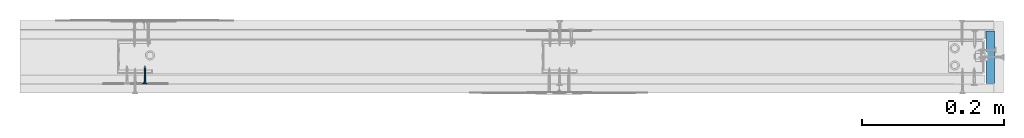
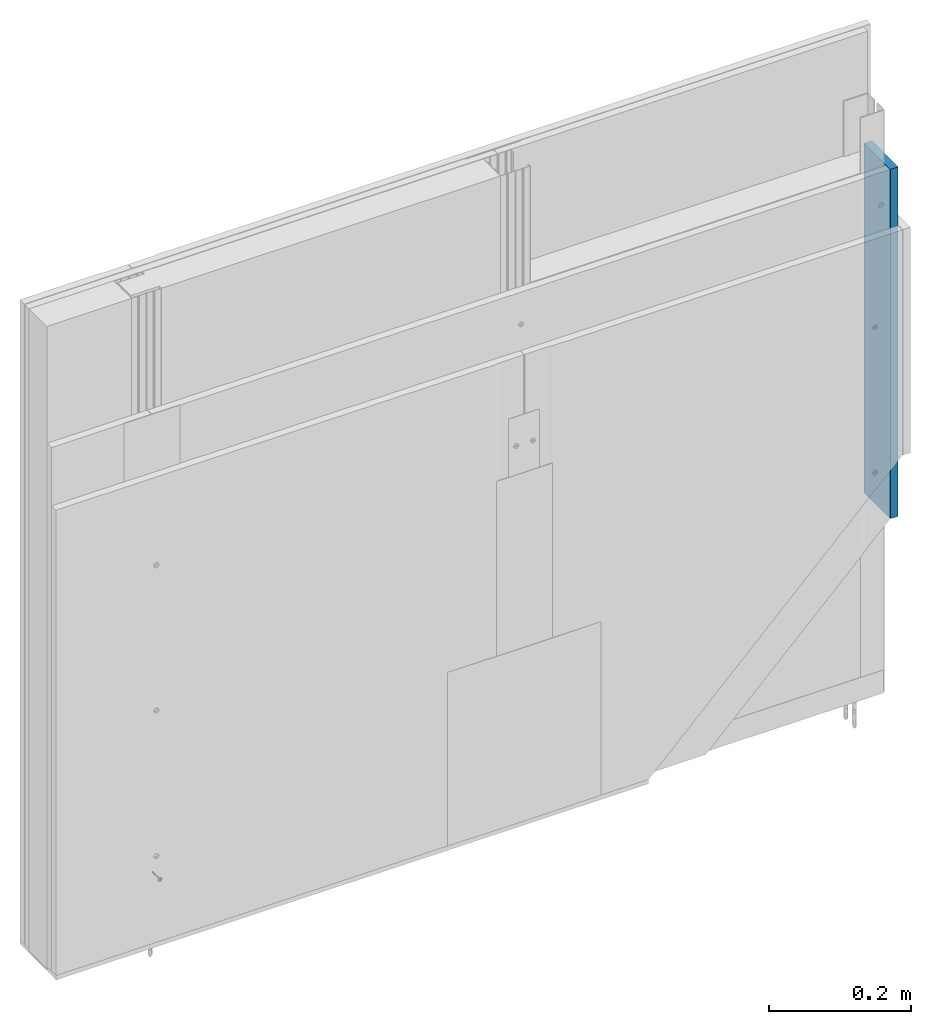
# One storey, part 5 of 52: 2 walls.
"""IFC2X3 building model written with IfcOpenShell, lengths in millimetres."""

from ifc_helpers import new_model, entity, si_unit, converted_unit, direction, frame, origin, origin_with_axes, place, context, project, spatial, faceted_brep, element, save


model = new_model("IFC2X3")

# Units and contexts
model_context = context("Model", 3, precision=1e-05, world=origin(), true_north=direction((0.0, 1.0, 0.0)))
ifc_project = project(units=[si_unit("LENGTHUNIT", "METRE", prefix="MILLI"), si_unit("AREAUNIT", "SQUARE_METRE"), si_unit("VOLUMEUNIT", "CUBIC_METRE"), converted_unit("PLANEANGLEUNIT", "DEGREE", entity("IfcPlaneAngleMeasure", 0.01745), si_unit("PLANEANGLEUNIT", "RADIAN"), dimensions=[0, 0, 0, 0, 0, 0, 0]), si_unit("SOLIDANGLEUNIT", "STERADIAN"), si_unit("MASSUNIT", "GRAM"), si_unit("TIMEUNIT", "SECOND"), si_unit("THERMODYNAMICTEMPERATUREUNIT", "DEGREE_CELSIUS"), si_unit("LUMINOUSINTENSITYUNIT", "LUMEN")], contexts=[model_context])

# Site, building, storey
site_placement = place(None, origin_with_axes())
site = spatial("IfcSite", under=ifc_project, at=site_placement, Name="Default Site", CompositionType="ELEMENT")
building_placement = place(site_placement, origin_with_axes())
building = spatial("IfcBuilding", under=site, at=building_placement, Name="Default Building", CompositionType="ELEMENT")
storey_placement = place(building_placement, origin_with_axes())
storey = spatial("IfcBuildingStorey", under=building, at=storey_placement, Name="Default Building Storey", CompositionType="ELEMENT", Elevation=0.0)

# Walls
wall_1_placement = place(storey_placement, frame((2438.967443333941, 5349.713057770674, -399.8785300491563), z_axis=(0.0, 0.0, 1.0), x_axis=(1.0, 8.115730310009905e-16, 0.0)))
element("IfcWall", 1, at=wall_1_placement, inside=storey, Name="Wkręt RIGIPS TN 25", context=model_context, shape_type="Brep", body=[
    faceted_brep([(-141.5377463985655, -3390.556721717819, 555.8000000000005), (-141.5377463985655, -3391.020944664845, 555.8000000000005), (-141.4875329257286, -3391.020944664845, 555.1619773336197), (-141.4875329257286, -3390.556721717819, 555.1619773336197), (-141.338128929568, -3391.020944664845, 554.5396649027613), (-141.338128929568, -3390.556721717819, 554.5396649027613), (-141.0932132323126, -3391.020944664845, 553.9483861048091), (-141.0932132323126, -3390.556721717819, 553.9483861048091), (-140.7588164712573, -3391.020944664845, 553.4027001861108), (-140.7588164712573, -3390.556721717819, 553.4027001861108), (-140.3431726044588, -3391.020944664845, 552.9160437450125), (-140.4541727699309, -3390.556721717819, 553.0314907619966), (-140.1080097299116, -3390.556721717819, 552.6986614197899), (-139.8565161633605, -3391.020944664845, 552.500399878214), (-139.7251262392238, -3390.556721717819, 552.4088262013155), (-139.3108302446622, -3391.020944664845, 552.1660031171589), (-139.3108302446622, -3390.556721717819, 552.1660031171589), (-138.8708651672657, -3390.556721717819, 551.9735584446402), (-138.7195514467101, -3391.020944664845, 551.9210874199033), (-138.4113302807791, -3390.556721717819, 551.8341600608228), (-137.9385961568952, -3390.556721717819, 551.7497404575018), (-138.0972390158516, -3391.020944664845, 551.7716834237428), (-137.459216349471, -3391.020944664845, 551.7214699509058), (-137.459216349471, -3390.556721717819, 551.7214699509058), (-136.8211936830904, -3391.020944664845, 551.7716834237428), (-136.8211936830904, -3390.556721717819, 551.7716834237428), (-136.198881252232, -3391.020944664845, 551.9210874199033), (-136.198881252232, -3390.556721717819, 551.9210874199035), (-135.6076024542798, -3391.020944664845, 552.1660031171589), (-135.6076024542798, -3390.556721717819, 552.1660031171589), (-135.0619165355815, -3391.020944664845, 552.500399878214), (-135.0619165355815, -3390.556721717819, 552.500399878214), (-134.5752600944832, -3391.020944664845, 552.9160437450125), (-134.5752600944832, -3390.556721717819, 552.9160437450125), (-134.1596162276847, -3391.020944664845, 553.4027001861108), (-134.1596162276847, -3390.556721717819, 553.4027001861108), (-133.8252194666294, -3391.020944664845, 553.9483861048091), (-133.8252194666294, -3390.556721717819, 553.9483861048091), (-133.580303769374, -3391.020944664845, 554.5396649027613), (-133.580303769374, -3390.556721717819, 554.5396649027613), (-133.4308997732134, -3391.020944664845, 556.438022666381), (-133.4308997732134, -3390.556721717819, 556.438022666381), (-133.3806863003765, -3390.556721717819, 555.8000000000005), (-133.3806863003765, -3391.020944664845, 555.8000000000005), (-133.4308997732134, -3390.556721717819, 555.1619773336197), (-133.4308997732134, -3391.020944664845, 555.1619773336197), (-133.580303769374, -3391.020944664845, 557.0603350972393), (-133.580303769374, -3390.556721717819, 557.0603350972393), (-133.8252194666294, -3391.020944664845, 557.6516138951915), (-133.8252194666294, -3390.556721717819, 557.6516138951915), (-134.1596162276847, -3391.020944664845, 558.1972998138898), (-134.1596162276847, -3390.556721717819, 558.1972998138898), (-134.5752600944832, -3391.020944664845, 558.6839562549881), (-134.5752600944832, -3390.556721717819, 558.6839562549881), (-135.0619165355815, -3391.020944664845, 559.0996001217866), (-135.0619165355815, -3390.556721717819, 559.0996001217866), (-135.6076024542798, -3391.020944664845, 559.4339968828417), (-135.6076024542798, -3390.556721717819, 559.4339968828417), (-136.198881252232, -3391.020944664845, 559.6789125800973), (-136.198881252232, -3390.556721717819, 559.6789125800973), (-136.8211936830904, -3391.020944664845, 559.8283165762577), (-136.8211936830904, -3390.556721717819, 559.8283165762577), (-137.459216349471, -3391.020944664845, 559.8785300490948), (-137.459216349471, -3390.556721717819, 559.8785300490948), (-138.0972390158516, -3391.020944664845, 559.8283165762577), (-138.0972390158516, -3390.556721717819, 559.8283165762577), (-138.7195514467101, -3391.020944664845, 559.6789125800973), (-138.7195514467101, -3390.556721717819, 559.6789125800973), (-139.3108302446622, -3391.020944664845, 559.4339968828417), (-139.3108302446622, -3390.556721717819, 559.4339968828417), (-139.8565161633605, -3391.020944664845, 559.0996001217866), (-139.8565161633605, -3390.556721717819, 559.0996001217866), (-140.3431726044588, -3391.020944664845, 558.6839562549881), (-140.3431726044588, -3390.556721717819, 558.6839562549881), (-140.7588164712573, -3391.020944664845, 558.1972998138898), (-140.7588164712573, -3390.556721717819, 558.1972998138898), (-141.0932132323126, -3391.020944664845, 557.6516138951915), (-141.0932132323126, -3390.556721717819, 557.6516138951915), (-141.338128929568, -3391.020944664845, 557.0603350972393), (-141.338128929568, -3390.556721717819, 557.0603350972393), (-141.4875329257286, -3391.020944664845, 556.438022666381), (-141.4875329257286, -3390.556721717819, 556.438022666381), (-137.8060615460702, -3388.229732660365, 554.5055560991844), (-137.459216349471, -3387.475459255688, 554.5693795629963), (-137.6517277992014, -3387.475459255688, 554.5845305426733), (-137.459216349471, -3388.229732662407, 554.4598930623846), (-137.8394989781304, -3387.475459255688, 554.6296104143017), (-138.1292698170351, -3388.229732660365, 554.6394333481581), (-138.0179063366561, -3387.475459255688, 554.7035091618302), (-138.1825568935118, -3387.475459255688, 554.8044071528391), (-138.4068150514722, -3388.229732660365, 554.8524012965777), (-138.3293964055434, -3387.475459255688, 554.9298199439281), (-138.6197830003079, -3388.229732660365, 555.1299465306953), (-138.4548091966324, -3387.475459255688, 555.0766594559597), (-138.5557071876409, -3387.475459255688, 555.2413100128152), (-138.7536602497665, -3388.229732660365, 555.4531548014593), (-138.6296059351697, -3387.475459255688, 555.4197173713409), (-138.6746858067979, -3387.475459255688, 555.6074885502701), (-138.7993232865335, -3388.229732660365, 555.7999999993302), (-138.6898367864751, -3387.475459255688, 555.8000000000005), (-138.7536602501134, -3388.229732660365, 556.1468451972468), (-138.6746858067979, -3387.475459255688, 555.9925114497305), (-138.6296059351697, -3387.475459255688, 556.1802826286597), (-138.6197830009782, -3388.229732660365, 556.4700534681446), (-138.5557071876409, -3387.475459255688, 556.3586899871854), (-138.4548091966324, -3387.475459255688, 556.5233405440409), (-138.4068150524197, -3388.229732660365, 556.7475987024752), (-138.3293964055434, -3387.475459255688, 556.6701800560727), (-138.1292698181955, -3388.229732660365, 556.9605666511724), (-138.1825568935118, -3387.475459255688, 556.7955928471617), (-138.0179063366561, -3387.475459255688, 556.8964908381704), (-137.8060615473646, -3388.229732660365, 557.0944439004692), (-137.8394989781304, -3387.475459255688, 556.9703895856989), (-137.6517277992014, -3387.475459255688, 557.0154694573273), (-137.459216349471, -3388.229732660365, 557.1401069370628), (-137.459216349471, -3387.475459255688, 557.0306204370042), (-137.1123711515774, -3388.229732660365, 557.0944439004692), (-137.2667048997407, -3387.475459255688, 557.0154694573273), (-137.0789337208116, -3387.475459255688, 556.9703895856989), (-136.7891628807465, -3388.229732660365, 556.9605666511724), (-136.9005263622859, -3387.475459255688, 556.8964908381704), (-136.7358758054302, -3387.475459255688, 556.7955928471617), (-136.5116176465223, -3388.229732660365, 556.7475987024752), (-136.5890362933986, -3387.475459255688, 556.6701800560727), (-136.2986496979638, -3388.229732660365, 556.4700534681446), (-136.4636235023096, -3387.475459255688, 556.5233405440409), (-136.3627255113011, -3387.475459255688, 556.3586899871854), (-136.1647724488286, -3388.229732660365, 556.1468451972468), (-136.2888267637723, -3387.475459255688, 556.1802826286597), (-136.2437468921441, -3387.475459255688, 555.9925114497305), (-136.1191094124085, -3388.229732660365, 555.7999999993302), (-136.2285959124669, -3387.475459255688, 555.8000000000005), (-136.1647724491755, -3388.229732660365, 555.4531548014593), (-136.2437468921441, -3387.475459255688, 555.6074885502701), (-136.2888267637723, -3387.475459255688, 555.4197173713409), (-136.2986496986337, -3388.229732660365, 555.1299465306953), (-136.3627255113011, -3387.475459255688, 555.2413100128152), (-136.4636235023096, -3387.475459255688, 555.0766594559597), (-136.5116176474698, -3388.229732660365, 554.8524012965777), (-136.5890362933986, -3387.475459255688, 554.9298199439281), (-136.7891628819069, -3388.229732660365, 554.6394333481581), (-136.7358758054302, -3387.475459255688, 554.8044071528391), (-136.9005263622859, -3387.475459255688, 554.7035091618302), (-137.1123711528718, -3388.229732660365, 554.5055560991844), (-137.0789337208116, -3387.475459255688, 554.6296104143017), (-137.2667048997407, -3387.475459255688, 554.5845305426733), (-137.459216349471, -3388.936142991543, 554.1737111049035), (-137.8801308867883, -3388.936142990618, 554.2291255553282), (-138.2723607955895, -3388.936142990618, 554.39159250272), (-138.6091762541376, -3388.936142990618, 554.6500400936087), (-138.8676238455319, -3388.936142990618, 554.9868555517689), (-139.030090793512, -3388.936142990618, 555.3790854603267), (-139.0855052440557, -3388.936142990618, 555.7999999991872), (-139.0300907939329, -3388.936142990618, 556.220914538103), (-138.8676238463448, -3388.936142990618, 556.6131444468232), (-138.6091762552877, -3388.936142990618, 556.949959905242), (-138.272360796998, -3388.936142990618, 557.2084074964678), (-137.8801308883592, -3388.936142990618, 557.3708744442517), (-137.459216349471, -3388.936142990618, 557.4262888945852), (-137.0383018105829, -3388.936142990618, 557.3708744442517), (-136.646071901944, -3388.936142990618, 557.2084074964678), (-136.3092564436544, -3388.936142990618, 556.949959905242), (-136.0508088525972, -3388.936142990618, 556.6131444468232), (-135.8883419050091, -3388.936142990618, 556.220914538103), (-135.8329274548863, -3388.936142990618, 555.7999999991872), (-135.88834190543, -3388.936142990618, 555.3790854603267), (-136.0508088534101, -3388.936142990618, 554.9868555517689), (-136.3092564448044, -3388.936142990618, 554.6500400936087), (-136.6460719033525, -3388.936142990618, 554.39159250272), (-137.0383018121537, -3388.936142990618, 554.2291255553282), (-137.459216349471, -3389.553938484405, 553.727343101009), (-137.995659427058, -3389.553938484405, 553.7979671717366), (-138.4955447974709, -3389.553938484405, 554.0050264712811), (-138.9248060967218, -3389.553938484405, 554.3344102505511), (-139.2541898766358, -3389.553938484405, 554.763671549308), (-139.46124917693, -3389.553938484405, 555.2635569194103), (-139.5318732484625, -3389.553938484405, 555.799999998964), (-139.4612491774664, -3389.553938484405, 556.3364430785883), (-139.2541898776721, -3389.553938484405, 556.8363284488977), (-138.9248060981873, -3389.553938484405, 557.2655897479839), (-138.495544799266, -3389.553938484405, 557.5949735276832), (-137.9956594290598, -3389.553938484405, 557.8020328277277), (-137.459216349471, -3389.553938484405, 557.8726568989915), (-136.9227732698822, -3389.553938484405, 557.8020328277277), (-136.422887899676, -3389.553938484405, 557.5949735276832), (-135.9936266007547, -3389.553938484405, 557.2655897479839), (-135.6642428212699, -3389.553938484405, 556.8363284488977), (-135.4571835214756, -3389.553938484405, 556.3364430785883), (-135.3865594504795, -3389.553938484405, 555.799999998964), (-135.457183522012, -3389.553938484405, 555.2635569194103), (-135.6642428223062, -3389.553938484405, 554.763671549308), (-135.9936266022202, -3389.553938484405, 554.3344102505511), (-136.4228879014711, -3389.553938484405, 554.0050264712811), (-136.922773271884, -3389.553938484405, 553.7979671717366), (-137.459216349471, -3390.04747944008, 553.1465393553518), (-138.1459824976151, -3390.047479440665, 553.2369538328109), (-138.7859466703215, -3390.047479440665, 553.5020356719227), (-139.3354963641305, -3390.047479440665, 553.9237199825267), (-139.7571806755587, -3390.047479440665, 554.4732696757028), (-140.0222625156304, -3390.047479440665, 555.1132338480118), (-140.1126769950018, -3390.047479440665, 555.7999999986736), (-140.0222625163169, -3390.047479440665, 556.4867661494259), (-139.7571806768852, -3390.047479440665, 557.1267303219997), (-139.3354963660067, -3390.047479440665, 557.6762800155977), (-138.7859466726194, -3390.047479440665, 558.0979643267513), (-138.1459825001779, -3390.047479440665, 558.3630461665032), (-137.459216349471, -3390.047479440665, 558.4534606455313), (-136.7724501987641, -3390.047479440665, 558.3630461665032), (-136.1324860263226, -3390.047479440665, 558.0979643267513), (-135.5829363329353, -3390.047479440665, 557.6762800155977), (-135.1612520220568, -3390.047479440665, 557.1267303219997), (-134.8961701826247, -3390.047479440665, 556.4867661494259), (-134.8057557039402, -3390.047479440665, 555.7999999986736), (-134.8961701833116, -3390.047479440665, 555.1132338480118), (-135.1612520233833, -3390.047479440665, 554.4732696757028), (-135.5829363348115, -3390.047479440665, 553.9237199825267), (-136.1324860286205, -3390.047479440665, 553.5020356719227), (-136.7724502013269, -3390.047479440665, 553.2369538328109), (-137.459216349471, -3390.388294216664, 552.4648055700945), (-138.3224281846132, -3390.388294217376, 552.5784495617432), (-139.1268135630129, -3390.388294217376, 552.9116368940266), (-139.8175549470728, -3390.388294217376, 553.4416613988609), (-140.3475794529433, -3390.388294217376, 554.1324027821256), (-140.6807667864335, -3390.388294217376, 554.936788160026), (-140.7944107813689, -3390.388294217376, 555.7999999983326), (-140.6807667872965, -3390.388294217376, 556.663211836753), (-140.3475794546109, -3390.388294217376, 557.4675972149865), (-139.8175549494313, -3390.388294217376, 558.1583385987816), (-139.1268135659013, -3390.388294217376, 558.6883631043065), (-138.3224281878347, -3390.388294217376, 559.0215504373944), (-137.459216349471, -3390.388294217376, 559.1351944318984), (-136.5960045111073, -3390.388294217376, 559.0215504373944), (-135.7916191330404, -3390.388294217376, 558.6883631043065), (-135.1008777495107, -3390.388294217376, 558.1583385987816), (-134.5708532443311, -3390.388294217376, 557.4675972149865), (-134.2376659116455, -3390.388294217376, 556.663211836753), (-134.1240219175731, -3390.388294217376, 555.7999999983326), (-134.2376659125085, -3390.388294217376, 554.936788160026), (-134.5708532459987, -3390.388294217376, 554.1324027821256), (-135.1008777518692, -3390.388294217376, 553.4416613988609), (-135.7916191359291, -3390.388294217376, 552.9116368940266), (-136.5960045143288, -3390.388294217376, 552.5784495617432), (-138.6898367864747, -3370.55807436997, 555.8000000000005), (-138.6746858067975, -3370.55807436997, 555.6074885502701), (-138.6296059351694, -3370.55807436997, 555.4197173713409), (-138.5557071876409, -3370.55807436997, 555.2413100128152), (-138.4548091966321, -3370.55807436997, 555.0766594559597), (-138.329396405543, -3370.55807436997, 554.9298199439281), (-138.1825568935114, -3370.55807436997, 554.8044071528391), (-138.0179063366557, -3370.55807436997, 554.7035091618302), (-137.83949897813, -3370.55807436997, 554.6296104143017), (-137.651727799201, -3370.55807436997, 554.5845305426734), (-137.4592163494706, -3370.55807436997, 554.5693795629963), (-137.2667048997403, -3370.55807436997, 554.5845305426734), (-137.0789337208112, -3370.55807436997, 554.6296104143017), (-136.9005263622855, -3370.55807436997, 554.7035091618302), (-136.7358758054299, -3370.55807436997, 554.8044071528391), (-136.5890362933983, -3370.55807436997, 554.9298199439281), (-136.4636235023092, -3370.55807436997, 555.0766594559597), (-136.3627255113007, -3370.55807436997, 555.2413100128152), (-136.2888267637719, -3370.55807436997, 555.4197173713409), (-136.2437468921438, -3370.55807436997, 555.9925114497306), (-136.2285959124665, -3370.55807436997, 555.8000000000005), (-136.2437468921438, -3370.55807436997, 555.6074885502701), (-136.2888267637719, -3370.55807436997, 556.1802826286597), (-136.3627255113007, -3370.55807436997, 556.3586899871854), (-136.4636235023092, -3370.55807436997, 556.5233405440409), (-136.5890362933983, -3370.55807436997, 556.6701800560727), (-136.7358758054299, -3370.55807436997, 556.7955928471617), (-136.9005263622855, -3370.55807436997, 556.8964908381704), (-137.0789337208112, -3370.55807436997, 556.9703895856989), (-137.2667048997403, -3370.55807436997, 557.0154694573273), (-137.4592163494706, -3370.55807436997, 557.0306204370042), (-137.651727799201, -3370.55807436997, 557.0154694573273), (-137.83949897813, -3370.55807436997, 556.9703895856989), (-138.0179063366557, -3370.55807436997, 556.8964908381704), (-138.1825568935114, -3370.55807436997, 556.7955928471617), (-138.329396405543, -3370.55807436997, 556.6701800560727), (-138.4548091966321, -3370.55807436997, 556.5233405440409), (-138.5557071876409, -3370.55807436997, 556.3586899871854), (-138.6296059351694, -3370.55807436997, 556.1802826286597), (-138.6746858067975, -3370.55807436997, 555.9925114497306), (-137.4592163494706, -3366.021033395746, 555.8000000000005), (-139.9592163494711, -3391.020944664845, 556.3000000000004), (-137.9592163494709, -3391.020944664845, 556.3000000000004), (-139.9592163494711, -3391.020944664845, 555.3000000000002), (-137.9592163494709, -3391.020944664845, 555.3000000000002), (-137.9592163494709, -3391.020944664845, 553.3000000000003), (-136.9592163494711, -3391.020944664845, 553.3000000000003), (-136.9592163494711, -3391.020944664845, 555.3000000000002), (-134.9592163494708, -3391.020944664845, 555.3000000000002), (-134.9592163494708, -3391.020944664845, 556.3000000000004), (-136.9592163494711, -3391.020944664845, 556.3000000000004), (-136.9592163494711, -3391.020944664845, 558.3000000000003), (-137.9592163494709, -3391.020944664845, 558.3000000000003), (-136.9592163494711, -3390.128974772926, 556.3000000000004), (-134.9592163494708, -3390.128974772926, 556.3000000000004), (-134.9592163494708, -3390.128974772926, 555.3000000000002), (-136.9592163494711, -3390.128974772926, 555.3000000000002), (-136.9592163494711, -3390.128974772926, 553.3000000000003), (-137.9592163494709, -3390.128974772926, 553.3000000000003), (-137.9592163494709, -3390.128974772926, 555.3000000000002), (-139.9592163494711, -3390.128974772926, 555.3000000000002), (-139.9592163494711, -3390.128974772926, 556.3000000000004), (-137.9592163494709, -3390.128974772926, 556.3000000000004), (-137.9592163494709, -3390.128974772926, 558.3000000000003), (-136.9592163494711, -3390.128974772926, 558.3000000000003)], [[[0, 1, 2, 3]], [[4, 5, 3, 2]], [[6, 7, 5, 4]], [[7, 6, 8, 9]], [[8, 10, 9]], [[10, 11, 9]], [[12, 11, 13]], [[11, 10, 13]], [[13, 14, 12]], [[13, 15, 14]], [[15, 16, 14]], [[17, 16, 18]], [[16, 15, 18]], [[18, 19, 17]], [[20, 19, 21]], [[19, 18, 21]], [[21, 22, 20]], [[22, 23, 20]], [[23, 22, 24, 25]], [[26, 27, 25, 24]], [[28, 29, 27, 26]], [[29, 28, 30, 31]], [[32, 33, 31, 30]], [[33, 32, 34, 35]], [[36, 37, 35, 34]], [[38, 39, 37, 36]], [[40, 41, 42, 43]], [[43, 42, 44, 45]], [[39, 38, 45, 44]], [[46, 47, 41, 40]], [[48, 49, 47, 46]], [[49, 48, 50, 51]], [[52, 53, 51, 50]], [[53, 52, 54, 55]], [[56, 57, 55, 54]], [[58, 59, 57, 56]], [[59, 58, 60, 61]], [[62, 63, 61, 60]], [[63, 62, 64, 65]], [[66, 67, 65, 64]], [[68, 69, 67, 66]], [[69, 68, 70, 71]], [[72, 73, 71, 70]], [[73, 72, 74, 75]], [[76, 77, 75, 74]], [[78, 79, 77, 76]], [[79, 78, 80, 81]], [[1, 0, 81, 80]], [[82, 83, 84]], [[82, 85, 83]], [[84, 86, 82]], [[82, 86, 87]], [[88, 87, 86]], [[87, 88, 89]], [[89, 90, 87]], [[89, 91, 90]], [[92, 91, 93]], [[92, 90, 91]], [[93, 94, 92]], [[92, 94, 95]], [[96, 95, 94]], [[95, 96, 97]], [[97, 98, 95]], [[97, 99, 98]], [[100, 99, 101]], [[100, 98, 99]], [[101, 102, 100]], [[100, 102, 103]], [[104, 103, 102]], [[103, 104, 105]], [[105, 106, 103]], [[105, 107, 106]], [[108, 107, 109]], [[108, 106, 107]], [[109, 110, 108]], [[108, 110, 111]], [[112, 111, 110]], [[111, 112, 113]], [[113, 114, 111]], [[113, 115, 114]], [[116, 115, 117]], [[116, 114, 115]], [[117, 118, 116]], [[116, 118, 119]], [[120, 119, 118]], [[119, 120, 121]], [[121, 122, 119]], [[121, 123, 122]], [[124, 123, 125]], [[124, 122, 123]], [[125, 126, 124]], [[124, 126, 127]], [[128, 127, 126]], [[127, 128, 129]], [[129, 130, 127]], [[129, 131, 130]], [[132, 131, 133]], [[132, 130, 131]], [[133, 134, 132]], [[132, 134, 135]], [[136, 135, 134]], [[135, 136, 137]], [[137, 138, 135]], [[137, 139, 138]], [[140, 139, 141]], [[140, 138, 139]], [[141, 142, 140]], [[140, 142, 143]], [[144, 143, 142]], [[143, 144, 145]], [[145, 85, 143]], [[145, 83, 85]], [[146, 85, 147]], [[82, 147, 85]], [[87, 148, 147, 82]], [[90, 149, 148, 87]], [[92, 150, 149, 90]], [[95, 151, 150, 92]], [[98, 152, 151, 95]], [[100, 153, 152, 98]], [[103, 154, 153, 100]], [[106, 155, 154, 103]], [[108, 156, 155, 106]], [[111, 157, 156, 108]], [[114, 158, 157, 111]], [[116, 159, 158, 114]], [[119, 160, 159, 116]], [[122, 161, 160, 119]], [[124, 162, 161, 122]], [[127, 163, 162, 124]], [[130, 164, 163, 127]], [[132, 165, 164, 130]], [[135, 166, 165, 132]], [[138, 167, 166, 135]], [[140, 168, 167, 138]], [[143, 169, 168, 140]], [[143, 85, 169]], [[146, 169, 85]], [[170, 146, 171]], [[147, 171, 146]], [[148, 172, 171, 147]], [[149, 173, 172, 148]], [[150, 174, 173, 149]], [[151, 175, 174, 150]], [[152, 176, 175, 151]], [[153, 177, 176, 152]], [[154, 178, 177, 153]], [[155, 179, 178, 154]], [[156, 180, 179, 155]], [[157, 181, 180, 156]], [[158, 182, 181, 157]], [[159, 183, 182, 158]], [[160, 184, 183, 159]], [[161, 185, 184, 160]], [[162, 186, 185, 161]], [[163, 187, 186, 162]], [[164, 188, 187, 163]], [[165, 189, 188, 164]], [[166, 190, 189, 165]], [[167, 191, 190, 166]], [[168, 192, 191, 167]], [[169, 193, 192, 168]], [[169, 146, 193]], [[170, 193, 146]], [[194, 170, 195]], [[171, 195, 170]], [[172, 196, 195, 171]], [[173, 197, 196, 172]], [[174, 198, 197, 173]], [[175, 199, 198, 174]], [[176, 200, 199, 175]], [[177, 201, 200, 176]], [[178, 202, 201, 177]], [[179, 203, 202, 178]], [[180, 204, 203, 179]], [[181, 205, 204, 180]], [[182, 206, 205, 181]], [[183, 207, 206, 182]], [[184, 208, 207, 183]], [[185, 209, 208, 184]], [[186, 210, 209, 185]], [[187, 211, 210, 186]], [[188, 212, 211, 187]], [[189, 213, 212, 188]], [[190, 214, 213, 189]], [[191, 215, 214, 190]], [[192, 216, 215, 191]], [[193, 217, 216, 192]], [[193, 170, 217]], [[194, 217, 170]], [[218, 19, 20]], [[218, 219, 19]], [[20, 23, 218]], [[218, 194, 219]], [[195, 219, 194]], [[219, 16, 17]], [[219, 220, 16]], [[17, 19, 219]], [[196, 220, 219, 195]], [[221, 11, 12]], [[220, 12, 14]], [[220, 221, 12]], [[14, 16, 220]], [[197, 221, 220, 196]], [[222, 7, 9]], [[9, 221, 222]], [[9, 11, 221]], [[198, 222, 221, 197]], [[5, 7, 223]], [[222, 223, 7]], [[199, 223, 222, 198]], [[223, 0, 3]], [[223, 224, 0]], [[3, 5, 223]], [[200, 224, 223, 199]], [[225, 79, 81]], [[81, 224, 225]], [[81, 0, 224]], [[201, 225, 224, 200]], [[225, 226, 77, 79]], [[202, 226, 225, 201]], [[226, 73, 75]], [[226, 227, 73]], [[75, 77, 226]], [[203, 227, 226, 202]], [[228, 69, 71]], [[71, 227, 228]], [[71, 73, 227]], [[204, 228, 227, 203]], [[228, 229, 67, 69]], [[205, 229, 228, 204]], [[229, 63, 65]], [[229, 230, 63]], [[65, 67, 229]], [[206, 230, 229, 205]], [[231, 59, 61]], [[61, 230, 231]], [[61, 63, 230]], [[207, 231, 230, 206]], [[231, 232, 57, 59]], [[208, 232, 231, 207]], [[232, 53, 55]], [[232, 233, 53]], [[55, 57, 232]], [[209, 233, 232, 208]], [[234, 49, 51]], [[51, 233, 234]], [[51, 53, 233]], [[210, 234, 233, 209]], [[234, 235, 47, 49]], [[211, 235, 234, 210]], [[235, 42, 41]], [[235, 236, 42]], [[41, 47, 235]], [[212, 236, 235, 211]], [[237, 39, 44]], [[44, 236, 237]], [[44, 42, 236]], [[213, 237, 236, 212]], [[37, 39, 238]], [[237, 238, 39]], [[214, 238, 237, 213]], [[238, 33, 35]], [[238, 239, 33]], [[35, 37, 238]], [[215, 239, 238, 214]], [[240, 29, 31]], [[31, 239, 240]], [[31, 33, 239]], [[216, 240, 239, 215]], [[27, 29, 241]], [[240, 241, 29]], [[217, 241, 240, 216]], [[217, 194, 241]], [[218, 241, 194]], [[241, 23, 25]], [[241, 218, 23]], [[25, 27, 241]], [[242, 99, 97, 243]], [[96, 244, 243, 97]], [[94, 245, 244, 96]], [[245, 94, 93, 246]], [[91, 247, 246, 93]], [[247, 91, 89, 248]], [[88, 249, 248, 89]], [[86, 250, 249, 88]], [[250, 86, 84, 251]], [[83, 252, 251, 84]], [[252, 83, 145, 253]], [[144, 254, 253, 145]], [[142, 255, 254, 144]], [[255, 142, 141, 256]], [[139, 257, 256, 141]], [[257, 139, 137, 258]], [[136, 259, 258, 137]], [[134, 260, 259, 136]], [[129, 261, 262, 131]], [[131, 262, 263, 133]], [[260, 134, 133, 263]], [[128, 264, 261, 129]], [[126, 265, 264, 128]], [[265, 126, 125, 266]], [[123, 267, 266, 125]], [[267, 123, 121, 268]], [[120, 269, 268, 121]], [[118, 270, 269, 120]], [[270, 118, 117, 271]], [[115, 272, 271, 117]], [[272, 115, 113, 273]], [[112, 274, 273, 113]], [[110, 275, 274, 112]], [[275, 110, 109, 276]], [[107, 277, 276, 109]], [[277, 107, 105, 278]], [[104, 279, 278, 105]], [[102, 280, 279, 104]], [[280, 102, 101, 281]], [[99, 242, 281, 101]], [[243, 244, 282]], [[282, 242, 243]], [[244, 245, 282]], [[246, 247, 282]], [[282, 245, 246]], [[248, 249, 282]], [[282, 247, 248]], [[249, 250, 282]], [[251, 252, 282]], [[282, 250, 251]], [[253, 254, 282]], [[282, 252, 253]], [[254, 255, 282]], [[256, 257, 282]], [[282, 255, 256]], [[258, 259, 282]], [[282, 257, 258]], [[259, 260, 282]], [[263, 262, 282]], [[282, 260, 263]], [[261, 264, 282]], [[282, 262, 261]], [[264, 265, 282]], [[266, 267, 282]], [[282, 265, 266]], [[268, 269, 282]], [[282, 267, 268]], [[269, 270, 282]], [[271, 272, 282]], [[282, 270, 271]], [[273, 274, 282]], [[282, 272, 273]], [[274, 275, 282]], [[276, 277, 282]], [[282, 275, 276]], [[278, 279, 282]], [[282, 277, 278]], [[279, 280, 282]], [[281, 242, 282]], [[282, 280, 281]], [[283, 76, 74, 284]], [[283, 285, 286, 287, 288, 289, 290, 291, 292, 293, 294, 284, 74, 72, 70, 68, 66, 64, 62, 60, 58, 56, 54, 52, 50, 48, 46, 40, 43, 45, 38, 36, 34, 32, 30, 28, 26, 24, 22, 21, 18, 15, 13, 10, 8, 6, 4, 2, 1, 80, 78, 76]], [[295, 296, 297, 298, 299, 300, 301, 302, 303, 304, 305, 306]], [[297, 290, 289, 298]], [[296, 291, 290, 297]], [[295, 292, 291, 296]], [[306, 293, 292, 295]], [[305, 294, 293, 306]], [[304, 284, 294, 305]], [[303, 283, 284, 304]], [[302, 285, 283, 303]], [[301, 286, 285, 302]], [[300, 287, 286, 301]], [[299, 288, 287, 300]], [[298, 289, 288, 299]]]),
])
wall_2_placement = place(storey_placement, frame((3489.395574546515, 2103.876833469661, 1337.777728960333), z_axis=(0.0, 0.0, 1.0), x_axis=(1.110223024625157e-16, -1.0, 0.0)))
element("IfcWall", 2, at=wall_2_placement, inside=storey, Name="Płyta gipsowo-kartonowa RIGIPS PRO (4PRO™)", context=model_context, shape_type="Brep", body=[
    faceted_brep([(70.23591072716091, -2.671072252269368e-11, -377.7777289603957), (70.23591072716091, 12.50000000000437, -377.7777289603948), (70.23591072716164, 12.50000000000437, -978.5388163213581), (70.23591072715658, -2.887645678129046e-12, -978.5388163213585), (144.1967559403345, 12.49999999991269, -377.7777289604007), (144.1967559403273, -8.879510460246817e-11, -377.7777289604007), (144.1967559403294, -8.879510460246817e-11, -978.5388163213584), (144.1967559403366, 12.49999999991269, -978.5388163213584)], [[[0, 1, 2, 3]], [[4, 5, 6, 7]], [[4, 1, 0, 5]], [[4, 7, 2, 1]], [[0, 3, 6, 5]], [[2, 7, 6, 3]]]),
])

save(model, "model.ifc")
